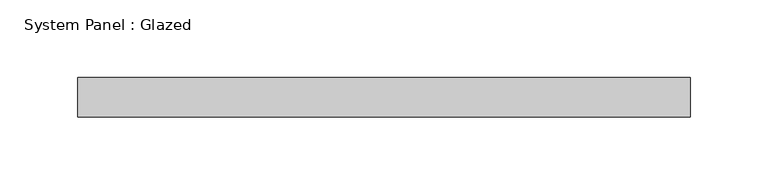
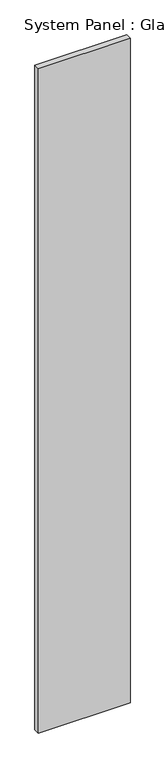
"""IFC4 building model written with IfcOpenShell, lengths in millimetres: plate geometry, System Panel : Glazed."""

from ifc_helpers import new_model, si_unit, origin, origin_with_axes, place, context, project, spatial, polyline, outline, extrude, source, transform, mapped, element, save


def system_panel_glazed_46fdc408(model_context):
    return source(origin(), model_context, "Body", "SweptSolid", [
        extrude(outline(polyline([(197.4084914, -44.45), (-197.4084914, -44.45), (-197.4084914, -19.05), (197.4084914, -19.05), (197.4084914, -44.45)])), origin_with_axes(), (0.0, 0.0, 1.0), 3022.6),
    ])


if __name__ == "__main__":
    model = new_model("IFC4")
    model_context = context("Model", 3, world=origin())
    ifc_project = project(units=[si_unit("LENGTHUNIT", "METRE", prefix="MILLI")], contexts=[model_context])
    site = spatial("IfcSite", under=ifc_project)
    building = spatial("IfcBuilding", under=site)
    placement = place(None, origin())
    system_panel_glazed_shape = system_panel_glazed_46fdc408(model_context)
    element("IfcPlate", 1, ObjectType="System Panel : Glazed", at=placement, inside=building, context=model_context, shape_type="MappedRepresentation", body=[
        mapped(system_panel_glazed_shape, transform((0.0, 0.0, 0.0), x_axis=(1.0, 0.0, 0.0), y_axis=(0.0, 1.0, 0.0), z_axis=(0.0, 0.0, 1.0))),
    ])
    save(model, "model.ifc")
